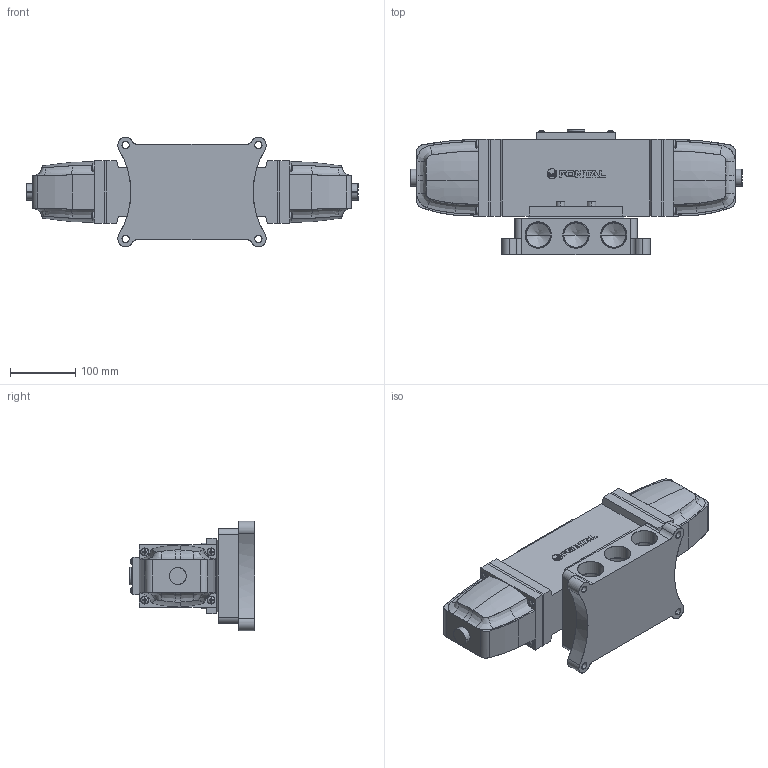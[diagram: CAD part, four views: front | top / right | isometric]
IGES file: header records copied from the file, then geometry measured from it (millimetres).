
Start section: SolidWorks IGES file using analytic representation for surfaces
Global section: file name: C:\Users\Toshiba\Desktop\AD3425-10-##.IGS; native system: SolidWorks 2014; preprocessor: SolidWorks 2014; author: Toshiba; date: 160122.154528; units: millimetre
Bounding box: 509.8 x 192.5 x 168 mm (x, y, z)
Surface area: 498494.8 mm2 (no closed solid volume)
Topology: 0 solids, 0 shells, 857 faces, 9704 edges, 9662 vertices
Faces by surface type: bspline 548, revolution 309
